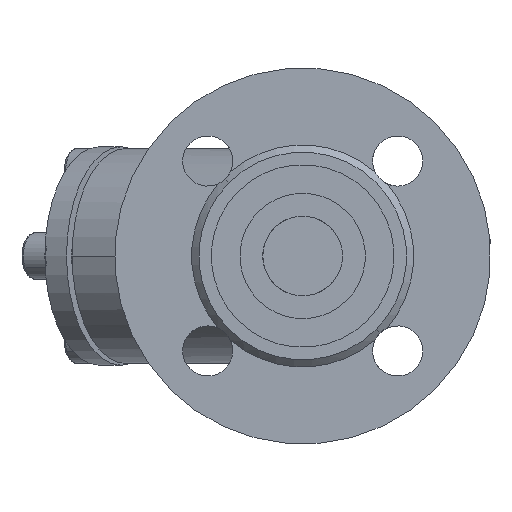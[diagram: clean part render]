
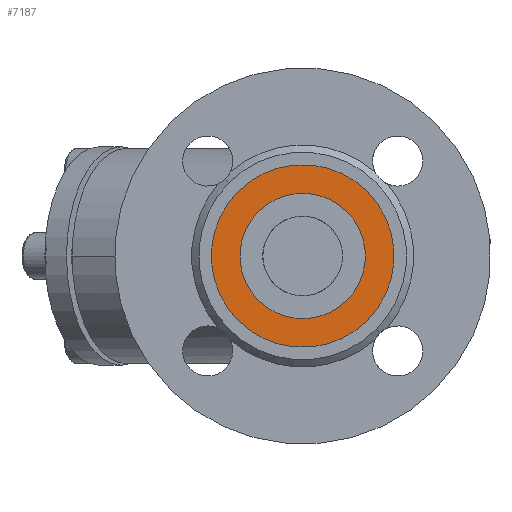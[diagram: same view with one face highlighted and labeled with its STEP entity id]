
A CAD part, left-side view. The second image highlights one B-rep face of the part: STEP entity #7187.
In plain terms, the highlighted planar face has unit normal (-1, 0, 0) as drawn and (0, -1, 0) by its records, which use the part's own axes.
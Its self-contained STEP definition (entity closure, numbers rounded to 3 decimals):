
#1521 = ORIENTED_EDGE ( 'NONE', *, *, #11666, .T. ) ;
#1626 = CIRCLE ( 'NONE', #1627, 17.5 ) ;
#1627 = AXIS2_PLACEMENT_3D ( 'NONE', #1628, #1629, #1630 ) ;
#1628 = CARTESIAN_POINT ( 'NONE',  ( 0., 2.5, 0. ) ) ;
#1629 = DIRECTION ( 'NONE',  ( 0., -1., 0. ) ) ;
#1630 = DIRECTION ( 'NONE',  ( 1., 0., 0. ) ) ;
#1706 = VERTEX_POINT ( 'NONE', #10574 ) ;
#1845 = EDGE_LOOP ( 'NONE', ( #3195, #6021 ) ) ;
#3195 = ORIENTED_EDGE ( 'NONE', *, *, #11576, .F. ) ;
#4355 = VERTEX_POINT ( 'NONE', #6675 ) ;
#6021 = ORIENTED_EDGE ( 'NONE', *, *, #9620, .F. ) ;
#6675 = CARTESIAN_POINT ( 'NONE',  ( -17.5, 2.5, 0. ) ) ;
#6923 = CARTESIAN_POINT ( 'NONE',  ( 25.5, 2.5, 0. ) ) ;
#7187 = ADVANCED_FACE ( 'NONE', ( #8474, #8475 ), #8476, .T. ) ;
#7628 = CARTESIAN_POINT ( 'NONE',  ( -25.5, 2.5, 0. ) ) ;
#7840 = CIRCLE ( 'NONE', #7841, 17.5 ) ;
#7841 = AXIS2_PLACEMENT_3D ( 'NONE', #7842, #7843, #7844 ) ;
#7842 = CARTESIAN_POINT ( 'NONE',  ( 0., 2.5, 0. ) ) ;
#7843 = DIRECTION ( 'NONE',  ( 0., -1., 0. ) ) ;
#7844 = DIRECTION ( 'NONE',  ( 1., 0., 0. ) ) ;
#8101 = CIRCLE ( 'NONE', #8102, 25.5 ) ;
#8102 = AXIS2_PLACEMENT_3D ( 'NONE', #8103, #8104, #8105 ) ;
#8103 = CARTESIAN_POINT ( 'NONE',  ( 0., 2.5, 0. ) ) ;
#8104 = DIRECTION ( 'NONE',  ( 0., -1., 0. ) ) ;
#8105 = DIRECTION ( 'NONE',  ( 1., 0., 0. ) ) ;
#8474 = FACE_BOUND ( 'NONE', #1845, .T. ) ;
#8475 = FACE_OUTER_BOUND ( 'NONE', #9432, .T. ) ;
#8476 = PLANE ( 'NONE',  #8477 ) ;
#8477 = AXIS2_PLACEMENT_3D ( 'NONE', #8478, #8479, #8480 ) ;
#8478 = CARTESIAN_POINT ( 'NONE',  ( 0., 2.5, 0. ) ) ;
#8479 = DIRECTION ( 'NONE',  ( 0., -1., 0. ) ) ;
#8480 = DIRECTION ( 'NONE',  ( 1., 0., 0. ) ) ;
#9432 = EDGE_LOOP ( 'NONE', ( #15105, #1521 ) ) ;
#9620 = EDGE_CURVE ( 'NONE', #4355, #1706, #1626, .T. ) ;
#10574 = CARTESIAN_POINT ( 'NONE',  ( 17.5, 2.5, 0. ) ) ;
#11238 = VERTEX_POINT ( 'NONE', #6923 ) ;
#11455 = VERTEX_POINT ( 'NONE', #7628 ) ;
#11576 = EDGE_CURVE ( 'NONE', #1706, #4355, #7840, .T. ) ;
#11666 = EDGE_CURVE ( 'NONE', #11455, #11238, #8101, .T. ) ;
#12558 = CIRCLE ( 'NONE', #12559, 25.5 ) ;
#12559 = AXIS2_PLACEMENT_3D ( 'NONE', #12560, #12561, #12562 ) ;
#12560 = CARTESIAN_POINT ( 'NONE',  ( 0., 2.5, 0. ) ) ;
#12561 = DIRECTION ( 'NONE',  ( 0., -1., 0. ) ) ;
#12562 = DIRECTION ( 'NONE',  ( 1., 0., 0. ) ) ;
#13186 = EDGE_CURVE ( 'NONE', #11238, #11455, #12558, .T. ) ;
#15105 = ORIENTED_EDGE ( 'NONE', *, *, #13186, .T. ) ;
